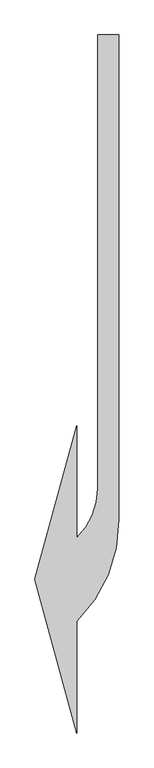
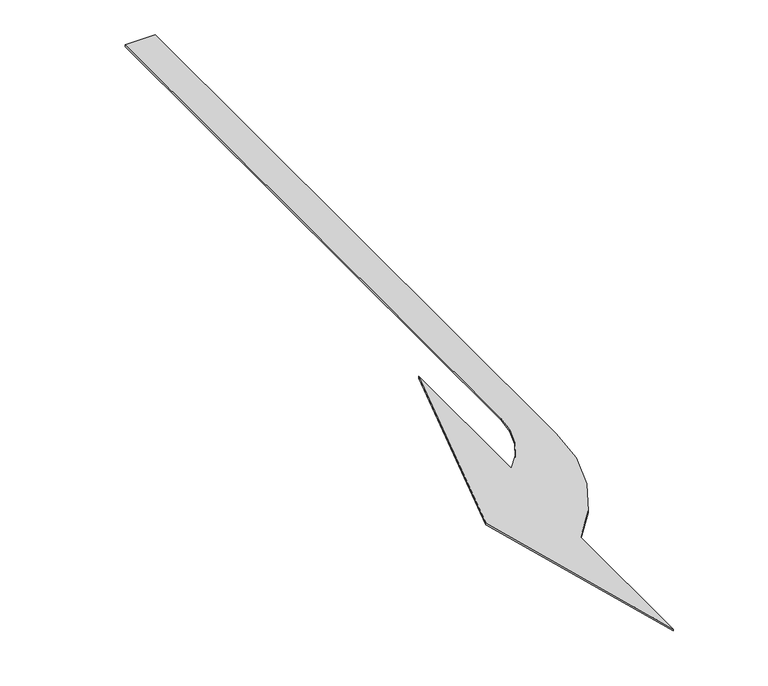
"""IFC4 building model written with IfcOpenShell, lengths in millimetres: geographic element geometry, 営_道路標識 : 道路標識."""

from ifc_helpers import new_model, si_unit, point, frame_2d, origin, origin_with_axes, place, context, project, spatial, polyline, circle_curve, trimmed, segment, composite_curve, outline, extrude, source, transform, mapped, element, save


def geographic_element_0894a9f6(model_context):
    return source(origin(), model_context, "Body", "SweptSolid", [
        extrude(outline(composite_curve([segment(polyline([(150.0, -749.4432975), (150.0, 2500.0), (300.0, 2500.0), (300.0, -971.5155079)]), True, "CONTINUOUS"), segment(trimmed(circle_curve(frame_2d((-699.8985741, -985.757754)), 1000.0), [point((300.0, -971.5155079))], [point((0.0, -1700.0))], False, "CARTESIAN"), True, "CONTINUOUS"), segment(polyline([(0.0, -1700.0), (0.0, -2500.0), (-300.0, -1400.0), (0.0, -300.0), (0.0, -1099.9995648)]), True, "CONTINUOUS"), segment(trimmed(circle_curve(frame_2d((-349.957, -742.886)), 500.0), [point((0.0, -1099.9995648))], [point((150.0, -749.4432975))], True, "CARTESIAN"), True, "CONTINUOUS")], self_intersect=False)), origin_with_axes(), (0.0, 0.0, 1.0), 10.0),
    ])


if __name__ == "__main__":
    model = new_model("IFC4")
    model_context = context("Model", 3, world=origin())
    ifc_project = project(units=[si_unit("LENGTHUNIT", "METRE", prefix="MILLI")], contexts=[model_context])
    site = spatial("IfcSite", under=ifc_project)
    building = spatial("IfcBuilding", under=site)
    placement = place(None, origin())
    geographic_element_shape = geographic_element_0894a9f6(model_context)
    element("IfcGeographicElement", 1, ObjectType="営_道路標識 : 道路標識", at=placement, inside=building, context=model_context, shape_type="MappedRepresentation", body=[
        mapped(geographic_element_shape, transform((0.0, 0.0, 0.0), x_axis=(1.0, 0.0, 0.0), y_axis=(0.0, 1.0, 0.0), z_axis=(0.0, 0.0, 1.0))),
    ])
    save(model, "model.ifc")
